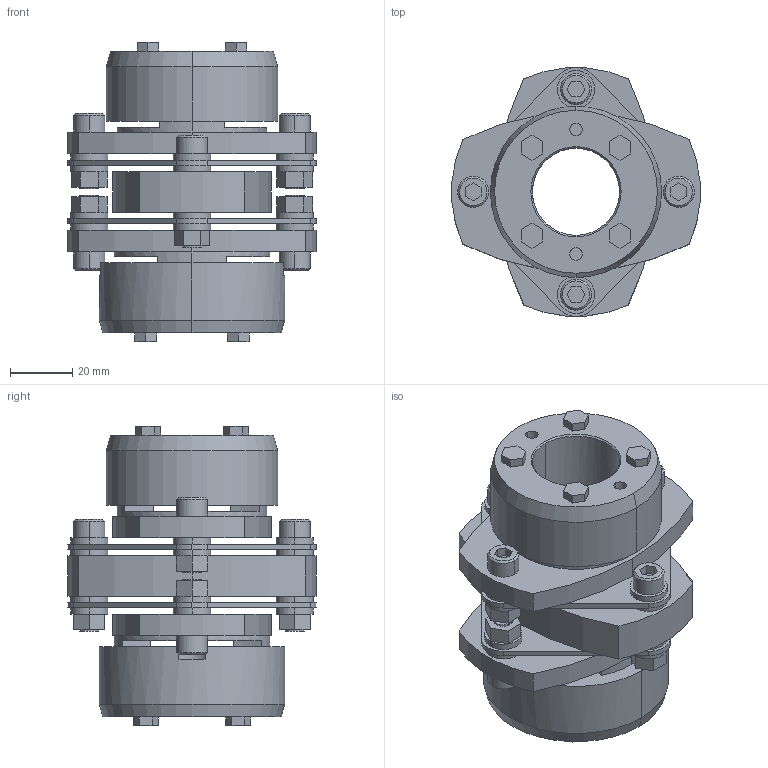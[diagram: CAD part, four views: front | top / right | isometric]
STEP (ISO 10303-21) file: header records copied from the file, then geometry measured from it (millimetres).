
FILE_DESCRIPTION((''),'2;1');
FILE_NAME('LCD-80T7-28×30.stp','2011-09-15T15:55:50',(''),(''),'AutoCAD STEP 2000i','AutoCAD 2000i',', , ');
FILE_SCHEMA(('CONFIG_CONTROL_DESIGN'));
Length unit declared in the file: millimetre
Products named in the file (12): LCD-80T7-28×30; 忣兜1; LC80T7-T030; LC80T7-T028-1; LC80T7-T028; LC80T7-T024; LC80T7-T022; LC80T7-T019-1; LC80T7-T019; LC80T7-T017-1; LC80T7-T017; LCD80-ITA
Assembly tree (11 placements, depth 2):
  LCD-80T7-28×30
    忣兜1
    LC80T7-T030
    LC80T7-T028-1
    LC80T7-T028
    LC80T7-T024
    LC80T7-T022
    LC80T7-T019-1
    LC80T7-T019
    LC80T7-T017-1
    LC80T7-T017
    LCD80-ITA
Bounding box: 80 x 79.95 x 96.1 mm (x, y, z)
Volume: 179756.9 mm3; surface area: 58170.1 mm2
Topology: 1 solids, 1 shells, 338 faces, 828 edges, 544 vertices
Faces by surface type: plane 192, cylinder 122, cone 24
Entity records: 10289 total; most frequent: DIRECTION 1816, CARTESIAN_POINT 1722, ORIENTED_EDGE 1656, EDGE_CURVE 828, AXIS2_PLACEMENT_3D 638, VERTEX_POINT 544, VECTOR 540, LINE 540
